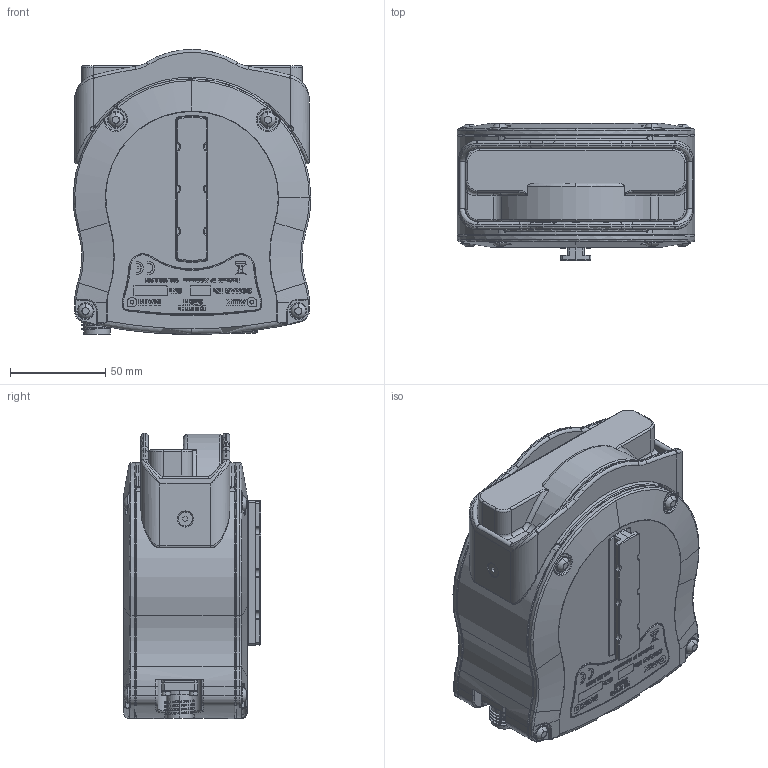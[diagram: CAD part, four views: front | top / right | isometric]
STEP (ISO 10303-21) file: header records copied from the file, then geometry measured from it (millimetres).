
FILE_DESCRIPTION (( 'STEP AP214' ), '1' );
FILE_NAME ('G2 1200ik Sonar Space Model - Inodive Mount.STEP', '2024-01-18T13:35:46', ( '' ), ( '' ), 'SwSTEP 2.0', 'SolidWorks 2022', '' );
FILE_SCHEMA (( 'AUTOMOTIVE_DESIGN' ));
Length unit declared in the file: millimetre
Products named in the file (1): G2 1200ik Sonar Space Model - Inodive Mount
Bounding box: 124.95 x 72.4 x 150 mm (x, y, z)
Volume: 419263.9 mm3; surface area: 157201.1 mm2
Topology: 16 solids, 17 shells, 2756 faces, 6972 edges, 4424 vertices
Faces by surface type: plane 1084, bspline 693, cylinder 538, torus 315, cone 81, sphere 45
Entity records: 145435 total; most frequent: CARTESIAN_POINT 52554, ORIENTED_EDGE 13876, DIRECTION 11332, EDGE_CURVE 6938, VERTEX_POINT 4420, AXIS2_PLACEMENT_3D 3856, VECTOR 3620, LINE 3620
